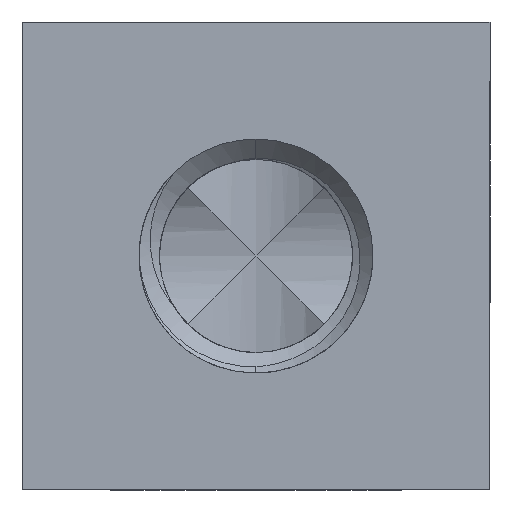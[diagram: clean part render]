
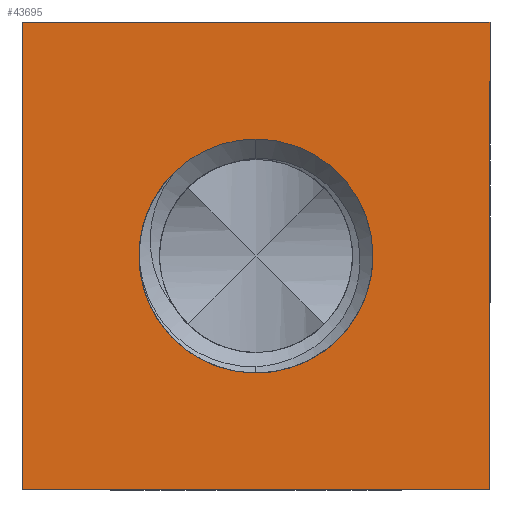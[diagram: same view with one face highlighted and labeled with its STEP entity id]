
A CAD part, front view. The second image highlights one B-rep face of the part: STEP entity #43695.
In plain terms, the highlighted planar face has unit normal (0, -1, 0).
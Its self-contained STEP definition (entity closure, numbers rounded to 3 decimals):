
#687 = CIRCLE ( 'NONE', #9297, 2. ) ;
#774 = LINE ( 'NONE', #46714, #10060 ) ;
#2184 = EDGE_CURVE ( 'NONE', #16551, #46677, #35951, .T. ) ;
#3095 = ORIENTED_EDGE ( 'NONE', *, *, #18114, .F. ) ;
#4647 = ORIENTED_EDGE ( 'NONE', *, *, #8114, .T. ) ;
#4780 = ORIENTED_EDGE ( 'NONE', *, *, #23747, .T. ) ;
#5167 = ORIENTED_EDGE ( 'NONE', *, *, #19793, .T. ) ;
#5380 = VECTOR ( 'NONE', #49083, 1000. ) ;
#5841 = VERTEX_POINT ( 'NONE', #23896 ) ;
#6204 = CARTESIAN_POINT ( 'NONE',  ( -1.384, -4., 1.444 ) ) ;
#6521 = EDGE_CURVE ( 'NONE', #43522, #25326, #687, .T. ) ;
#7421 = VERTEX_POINT ( 'NONE', #6204 ) ;
#8092 = DIRECTION ( 'NONE',  ( 0., 0., 1. ) ) ;
#8114 = EDGE_CURVE ( 'NONE', #7421, #27976, #41543, .T. ) ;
#9297 = AXIS2_PLACEMENT_3D ( 'NONE', #20945, #48573, #17299 ) ;
#9305 = EDGE_LOOP ( 'NONE', ( #21896, #4647, #5167, #12133 ) ) ;
#9344 = CARTESIAN_POINT ( 'NONE',  ( 0., -4., 4. ) ) ;
#10060 = VECTOR ( 'NONE', #42395, 1000. ) ;
#10525 = DIRECTION ( 'NONE',  ( 0., 0., 1. ) ) ;
#11256 = CARTESIAN_POINT ( 'NONE',  ( -4., -4., -4. ) ) ;
#11703 = FACE_BOUND ( 'NONE', #9305, .T. ) ;
#12133 = ORIENTED_EDGE ( 'NONE', *, *, #6521, .T. ) ;
#14343 = DIRECTION ( 'NONE',  ( 0., 1., 0. ) ) ;
#16374 = DIRECTION ( 'NONE',  ( 0., 1., 0. ) ) ;
#16551 = VERTEX_POINT ( 'NONE', #11256 ) ;
#17299 = DIRECTION ( 'NONE',  ( 0., 0., 1. ) ) ;
#18114 = EDGE_CURVE ( 'NONE', #43962, #5841, #46313, .T. ) ;
#18389 = LINE ( 'NONE', #49428, #5380 ) ;
#19247 = CARTESIAN_POINT ( 'NONE',  ( -4., -4., 4. ) ) ;
#19296 = EDGE_CURVE ( 'NONE', #25326, #7421, #26538, .T. ) ;
#19367 = CARTESIAN_POINT ( 'NONE',  ( 0., -4., 0. ) ) ;
#19793 = EDGE_CURVE ( 'NONE', #27976, #43522, #37623, .T. ) ;
#20945 = CARTESIAN_POINT ( 'NONE',  ( 0., -4., 0. ) ) ;
#21497 = CARTESIAN_POINT ( 'NONE',  ( -1.999, -4., 0.046 ) ) ;
#21624 = CARTESIAN_POINT ( 'NONE',  ( 0., -4., -2. ) ) ;
#21896 = ORIENTED_EDGE ( 'NONE', *, *, #19296, .T. ) ;
#22850 = VECTOR ( 'NONE', #48741, 1000. ) ;
#23747 = EDGE_CURVE ( 'NONE', #46677, #5841, #18389, .T. ) ;
#23851 = DIRECTION ( 'NONE',  ( 0., 1., 0. ) ) ;
#23896 = CARTESIAN_POINT ( 'NONE',  ( 4., -4., 4. ) ) ;
#24192 = AXIS2_PLACEMENT_3D ( 'NONE', #27638, #23851, #8092 ) ;
#24518 = CARTESIAN_POINT ( 'NONE',  ( 0., -4., 0. ) ) ;
#25326 = VERTEX_POINT ( 'NONE', #21497 ) ;
#26538 = CIRCLE ( 'NONE', #24192, 2. ) ;
#27372 = EDGE_LOOP ( 'NONE', ( #3095, #35302, #46520, #4780 ) ) ;
#27638 = CARTESIAN_POINT ( 'NONE',  ( 0., -4., 0. ) ) ;
#27976 = VERTEX_POINT ( 'NONE', #49165 ) ;
#28297 = DIRECTION ( 'NONE',  ( 0., 0., 1. ) ) ;
#29471 = AXIS2_PLACEMENT_3D ( 'NONE', #24518, #16374, #28297 ) ;
#31145 = CARTESIAN_POINT ( 'NONE',  ( 0., -4., -4. ) ) ;
#34932 = DIRECTION ( 'NONE',  ( 1., 0., 0. ) ) ;
#35302 = ORIENTED_EDGE ( 'NONE', *, *, #48369, .F. ) ;
#35780 = AXIS2_PLACEMENT_3D ( 'NONE', #49934, #14343, #10525 ) ;
#35951 = LINE ( 'NONE', #31145, #46490 ) ;
#37623 = CIRCLE ( 'NONE', #29471, 2. ) ;
#38532 = PLANE ( 'NONE',  #35780 ) ;
#41543 = CIRCLE ( 'NONE', #48280, 2. ) ;
#42395 = DIRECTION ( 'NONE',  ( 0., 0., 1. ) ) ;
#43252 = FACE_OUTER_BOUND ( 'NONE', #27372, .T. ) ;
#43522 = VERTEX_POINT ( 'NONE', #21624 ) ;
#43695 = ADVANCED_FACE ( 'NONE', ( #11703, #43252 ), #38532, .F. ) ;
#43962 = VERTEX_POINT ( 'NONE', #19247 ) ;
#46313 = LINE ( 'NONE', #9344, #22850 ) ;
#46490 = VECTOR ( 'NONE', #34932, 1000. ) ;
#46520 = ORIENTED_EDGE ( 'NONE', *, *, #2184, .T. ) ;
#46677 = VERTEX_POINT ( 'NONE', #50776 ) ;
#46714 = CARTESIAN_POINT ( 'NONE',  ( -4., -4., 0. ) ) ;
#47002 = DIRECTION ( 'NONE',  ( 0., 0., 1. ) ) ;
#47345 = DIRECTION ( 'NONE',  ( 0., 1., 0. ) ) ;
#48280 = AXIS2_PLACEMENT_3D ( 'NONE', #19367, #47345, #47002 ) ;
#48369 = EDGE_CURVE ( 'NONE', #16551, #43962, #774, .T. ) ;
#48573 = DIRECTION ( 'NONE',  ( 0., 1., 0. ) ) ;
#48741 = DIRECTION ( 'NONE',  ( 1., 0., 0. ) ) ;
#49083 = DIRECTION ( 'NONE',  ( 0., 0., 1. ) ) ;
#49165 = CARTESIAN_POINT ( 'NONE',  ( 0., -4., 2. ) ) ;
#49428 = CARTESIAN_POINT ( 'NONE',  ( 4., -4., 0. ) ) ;
#49934 = CARTESIAN_POINT ( 'NONE',  ( 0., -4., 0. ) ) ;
#50776 = CARTESIAN_POINT ( 'NONE',  ( 4., -4., -4. ) ) ;
